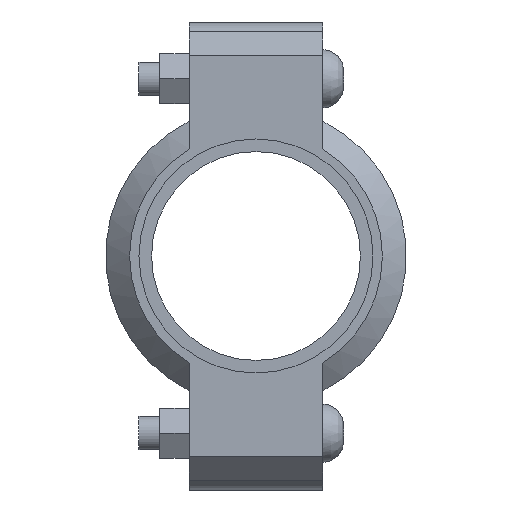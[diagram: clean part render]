
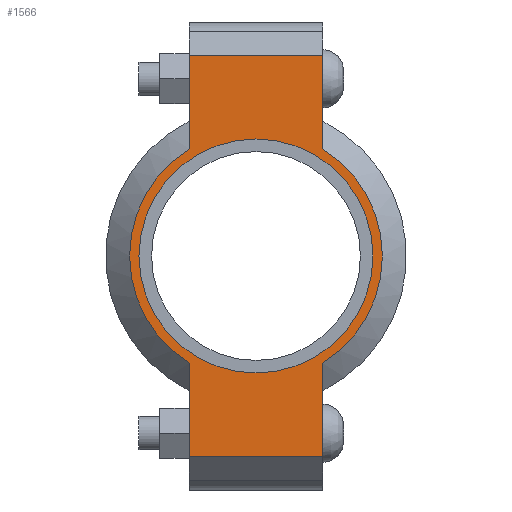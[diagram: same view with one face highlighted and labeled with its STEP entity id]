
A CAD part, left-side view. The second image highlights one B-rep face of the part: STEP entity #1566.
In plain terms, the highlighted planar face has unit normal (-1, 0, 0) as drawn and (0, 0, 1) by its records, which use the part's own axes.
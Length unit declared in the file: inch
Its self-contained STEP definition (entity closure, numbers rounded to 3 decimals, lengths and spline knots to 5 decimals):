
#190=LINE('',#2733,#283);
#198=LINE('',#2769,#291);
#205=LINE('',#2790,#298);
#214=LINE('',#2822,#307);
#215=LINE('',#2826,#308);
#216=LINE('',#2828,#309);
#283=VECTOR('',#2225,0.3937);
#291=VECTOR('',#2241,0.3937);
#298=VECTOR('',#2260,0.3937);
#307=VECTOR('',#2285,0.3937);
#308=VECTOR('',#2290,0.3937);
#309=VECTOR('',#2291,0.3937);
#365=FACE_BOUND('',#543,.T.);
#437=FACE_OUTER_BOUND('',#542,.T.);
#542=EDGE_LOOP('',(#1307,#1308,#1309,#1310,#1311,#1312,#1313,#1314));
#543=EDGE_LOOP('',(#1315));
#615=CIRCLE('',#1785,1.75);
#641=CIRCLE('',#1844,1.89);
#642=CIRCLE('',#1845,1.89);
#707=VERTEX_POINT('',#2549);
#750=VERTEX_POINT('',#2730);
#751=VERTEX_POINT('',#2732);
#762=VERTEX_POINT('',#2764);
#763=VERTEX_POINT('',#2768);
#770=VERTEX_POINT('',#2787);
#771=VERTEX_POINT('',#2789);
#781=VERTEX_POINT('',#2825);
#782=VERTEX_POINT('',#2827);
#863=EDGE_CURVE('',#707,#707,#615,.T.);
#924=EDGE_CURVE('',#751,#750,#190,.T.);
#938=EDGE_CURVE('',#763,#762,#198,.T.);
#948=EDGE_CURVE('',#771,#770,#205,.T.);
#963=EDGE_CURVE('',#763,#750,#214,.T.);
#964=EDGE_CURVE('',#762,#771,#641,.T.);
#965=EDGE_CURVE('',#781,#770,#215,.T.);
#966=EDGE_CURVE('',#781,#782,#216,.T.);
#967=EDGE_CURVE('',#782,#751,#642,.T.);
#1307=ORIENTED_EDGE('',*,*,#963,.F.);
#1308=ORIENTED_EDGE('',*,*,#938,.T.);
#1309=ORIENTED_EDGE('',*,*,#964,.T.);
#1310=ORIENTED_EDGE('',*,*,#948,.T.);
#1311=ORIENTED_EDGE('',*,*,#965,.F.);
#1312=ORIENTED_EDGE('',*,*,#966,.T.);
#1313=ORIENTED_EDGE('',*,*,#967,.T.);
#1314=ORIENTED_EDGE('',*,*,#924,.T.);
#1315=ORIENTED_EDGE('',*,*,#863,.T.);
#1408=PLANE('',#1843);
#1566=ADVANCED_FACE('',(#437,#365),#1408,.T.);
#1785=AXIS2_PLACEMENT_3D('',#2551,#2101,#2102);
#1843=AXIS2_PLACEMENT_3D('',#2823,#2286,#2287);
#1844=AXIS2_PLACEMENT_3D('',#2824,#2288,#2289);
#1845=AXIS2_PLACEMENT_3D('',#2829,#2292,#2293);
#2101=DIRECTION('center_axis',(0.,0.,-1.));
#2102=DIRECTION('ref_axis',(-1.,0.,0.));
#2225=DIRECTION('',(-1.,0.,0.));
#2241=DIRECTION('',(1.,0.,0.));
#2260=DIRECTION('',(1.,0.,0.));
#2285=DIRECTION('',(0.,1.,0.));
#2286=DIRECTION('center_axis',(0.,0.,1.));
#2287=DIRECTION('ref_axis',(1.,0.,0.));
#2288=DIRECTION('center_axis',(0.,0.,1.));
#2289=DIRECTION('ref_axis',(-1.,0.,0.));
#2290=DIRECTION('',(0.,-1.,0.));
#2291=DIRECTION('',(-1.,0.,0.));
#2292=DIRECTION('center_axis',(0.,0.,1.));
#2293=DIRECTION('ref_axis',(-1.,0.,0.));
#2549=CARTESIAN_POINT('',(1.75,0.,0.94));
#2551=CARTESIAN_POINT('Origin',(0.,0.,0.94));
#2730=CARTESIAN_POINT('',(-3.,1.,0.94));
#2732=CARTESIAN_POINT('',(-1.60378,1.,0.94));
#2733=CARTESIAN_POINT('',(-3.5,1.,0.94));
#2764=CARTESIAN_POINT('',(-1.60378,-1.,0.94));
#2768=CARTESIAN_POINT('',(-3.,-1.,0.94));
#2769=CARTESIAN_POINT('',(3.5,-1.,0.94));
#2787=CARTESIAN_POINT('',(3.,-1.,0.94));
#2789=CARTESIAN_POINT('',(1.60378,-1.,0.94));
#2790=CARTESIAN_POINT('',(3.5,-1.,0.94));
#2822=CARTESIAN_POINT('',(-3.,0.5,0.94));
#2823=CARTESIAN_POINT('Origin',(0.,0.,
0.94));
#2824=CARTESIAN_POINT('Origin',(0.,0.,0.94));
#2825=CARTESIAN_POINT('',(3.,1.,0.94));
#2826=CARTESIAN_POINT('',(3.,-0.5,0.94));
#2827=CARTESIAN_POINT('',(1.60378,1.,0.94));
#2828=CARTESIAN_POINT('',(-3.5,1.,0.94));
#2829=CARTESIAN_POINT('Origin',(0.,0.,0.94));
